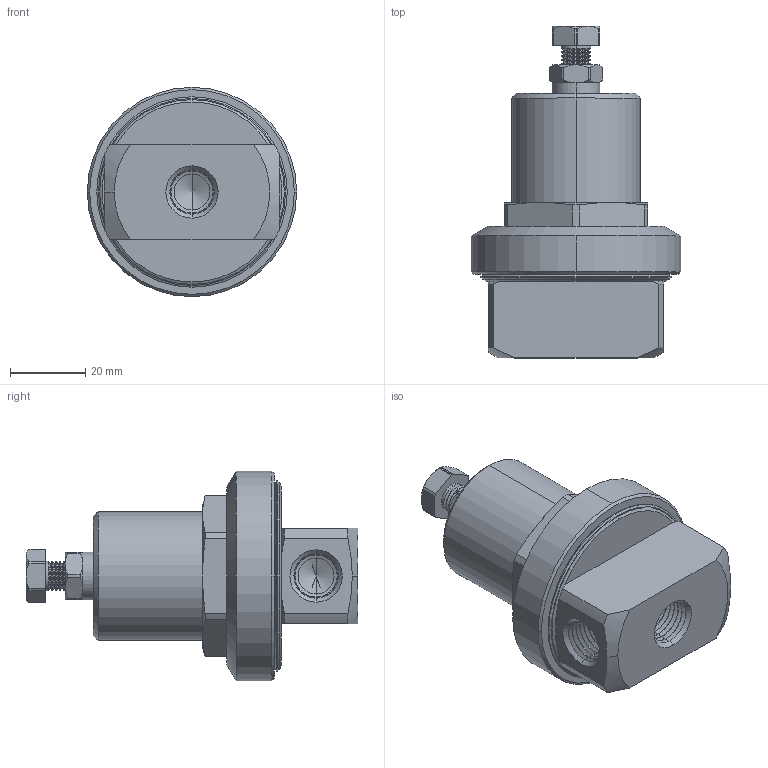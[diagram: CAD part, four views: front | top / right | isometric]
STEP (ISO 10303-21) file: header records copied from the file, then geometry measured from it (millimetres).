
FILE_DESCRIPTION (( 'STEP AP203' ), '1' );
FILE_NAME ('BPR-250.STEP', '2020-05-18T18:23:44', ( '' ), ( '' ), 'SwSTEP 2.0', 'SolidWorks 2011', '' );
FILE_SCHEMA (( 'CONFIG_CONTROL_DESIGN' ));
Length unit declared in the file: inch
Products named in the file (2): BPR-250; Part1^BPR-250-A-28_CM
Assembly tree (1 placements, depth 2):
  BPR-250
    Part1^BPR-250-A-28_CM
Bounding box: 55.55 x 88.06 x 55.55 mm (x, y, z)
Volume: 89761.7 mm3; surface area: 16321.8 mm2
Topology: 1 solids, 1 shells, 275 faces, 654 edges, 386 vertices
Faces by surface type: cone 164, cylinder 70, plane 41
Entity records: 8168 total; most frequent: CARTESIAN_POINT 1542, DIRECTION 1464, ORIENTED_EDGE 1300, EDGE_CURVE 650, AXIS2_PLACEMENT_3D 598, VERTEX_POINT 386, CIRCLE 319, EDGE_LOOP 284
